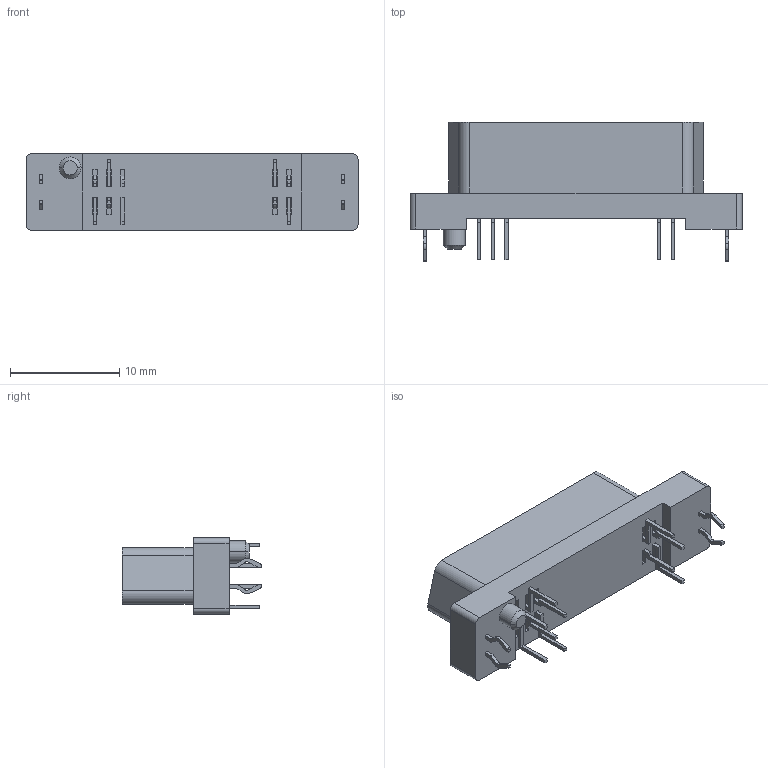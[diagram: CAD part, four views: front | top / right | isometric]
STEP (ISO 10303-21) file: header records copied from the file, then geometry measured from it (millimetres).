
FILE_DESCRIPTION((''),'2;1');
FILE_NAME('015921430','2019-04-30T',('gga'),(''),'PRO/ENGINEER BY PARAMETRIC TECHNOLOGY CORPORATION, 2016010','PRO/ENGINEER BY PARAMETRIC TECHNOLOGY CORPORATION, 2016010','');
FILE_SCHEMA(('CONFIG_CONTROL_DESIGN'));
Length unit declared in the file: inch
Products named in the file (1): 015921430
Bounding box: 30.45 x 12.8 x 7.01 mm (x, y, z)
Volume: 1081.6 mm3; surface area: 1718.5 mm2
Topology: 1 solids, 1 shells, 372 faces, 1158 edges, 788 vertices
Faces by surface type: plane 282, cylinder 88, cone 2
Entity records: 12826 total; most frequent: CARTESIAN_POINT 2251, ORIENTED_EDGE 2182, DIRECTION 2148, EDGE_CURVE 1091, VECTOR 914, LINE 914, VERTEX_POINT 720, AXIS2_PLACEMENT_3D 617
